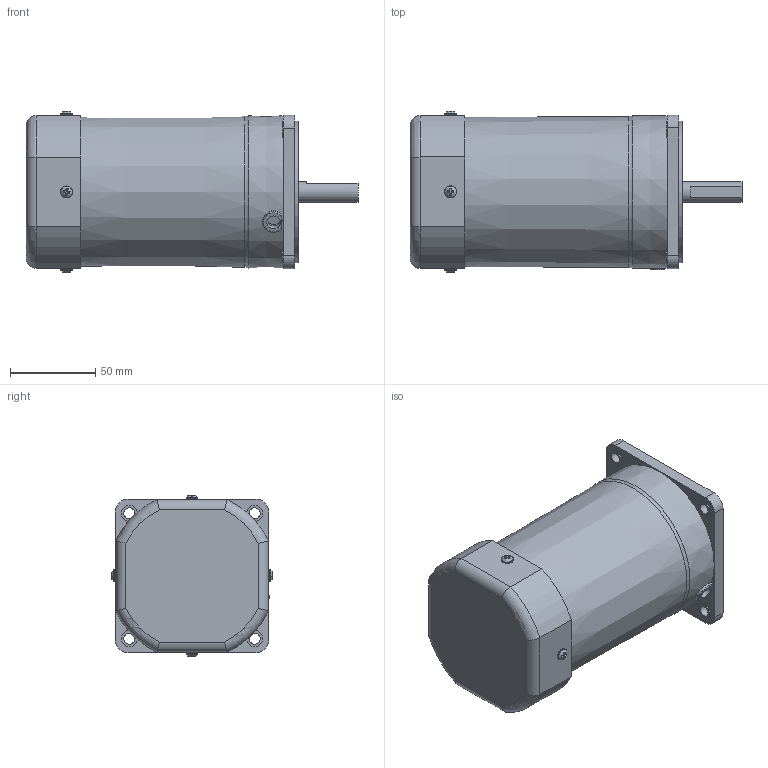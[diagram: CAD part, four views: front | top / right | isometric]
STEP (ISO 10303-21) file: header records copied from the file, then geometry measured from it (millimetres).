
FILE_DESCRIPTION((''),'2;1');
FILE_NAME('D:\STP파일\180W MOTOR\S9I180D.stp','2013-05-20T18:53:53',('leebh'),(''),'Autodesk Inventor 2011','Autodesk Inventor 2011','');
FILE_SCHEMA(('AUTOMOTIVE_DESIGN { 1 0 10303 214 1 1 1 1 }'));
Length unit declared in the file: millimetre
Products named in the file (1): S9I90G-T1
Bounding box: 194.8 x 94.79 x 94.75 mm (x, y, z)
Volume: 1006133.4 mm3; surface area: 67630.5 mm2
Topology: 1 solids, 4 shells, 174 faces, 430 edges, 280 vertices
Faces by surface type: plane 105, cylinder 45, torus 14, cone 6, bspline 4
Full cylindrical faces by diameter (mm): 4 x4, 6.5 x4, 7 x4, 8 x1, 9.5 x4, 10 x1, 12 x1, 40 x1, 83 x1
Entity records: 5359 total; most frequent: CARTESIAN_POINT 1399, DIRECTION 762, ORIENTED_EDGE 748, EDGE_CURVE 374, AXIS2_PLACEMENT_3D 278, VERTEX_POINT 265, EDGE_LOOP 245, VECTOR 206
